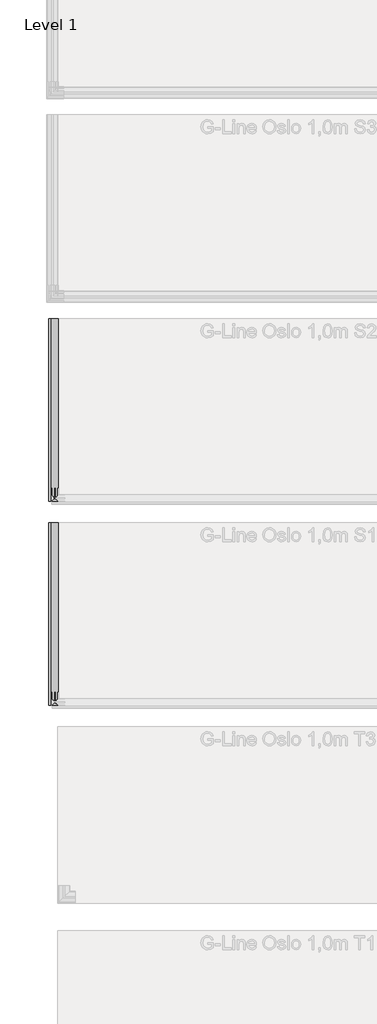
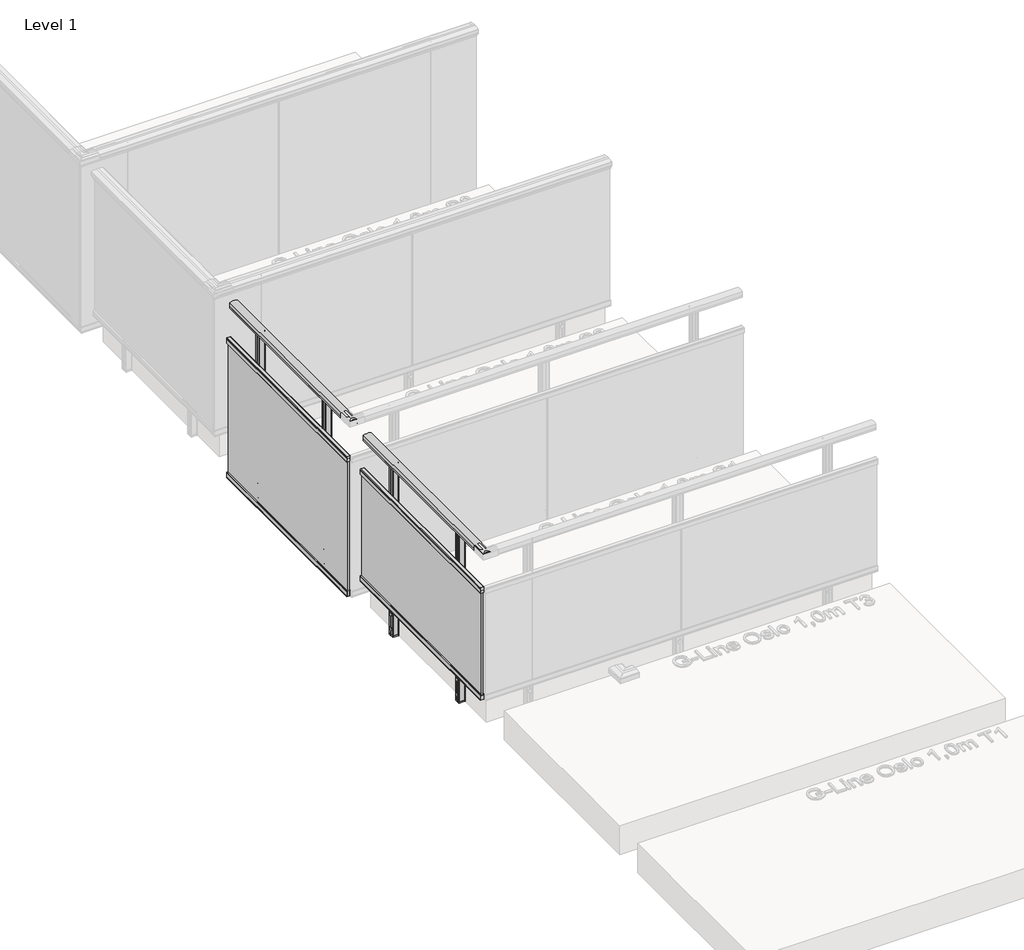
# One storey, part 31 of 66: 2 railings.
"""IFC4 building model written with IfcOpenShell, lengths in millimetres."""

from ifc_helpers import new_model, si_unit, point, frame, frame_2d, origin, place, context, project, spatial, polyline, circle_curve, trimmed, segment, composite_curve, outline, extrude, element, save

model = new_model("IFC4")

# Units and contexts
model_context = context("Model", 3, world=origin())
ifc_project = project(units=[si_unit("LENGTHUNIT", "METRE", prefix="MILLI")], contexts=[model_context])

# Site, building, storey
site = spatial("IfcSite", under=ifc_project)
building = spatial("IfcBuilding", under=site)
storey = spatial("IfcBuildingStorey", under=building, Name="Level 1", Elevation=0.0)

# Railings
placement = place(None, origin())
element("IfcRailing", 1, ObjectType="G-Line Oslo 1,0m S1", at=placement, inside=storey, context=model_context, shape_type="SweptSolid", body=[
    extrude(outline(composite_curve([segment(trimmed(circle_curve(frame_2d((942.6785502, 4483.339356)), 57.3235687), [point((994.1390059, 4508.5943162))], [point((994.1342258, 4458.074658))], False, "CARTESIAN"), True, "CONTINUOUS"), segment(polyline([(994.1342258, 4458.074658), (967.0235023, 4458.074658), (966.4415706, 4458.6565897), (965.8194895, 4458.0345086), (957.2498847, 4458.0345086), (957.2498847, 4459.8394615), (980.4998829, 4459.8394615), (980.4998829, 4506.8345077), (957.2498847, 4506.8345077), (957.2498847, 4508.5943162), (965.9694895, 4508.5943162), (966.5842725, 4507.9795332), (967.1990555, 4508.5943162), (994.1390059, 4508.5943162)]), True, "CONTINUOUS")], self_intersect=False)), frame((0.0, 12585.2886441, 0.0), z_axis=(0.0, 1.0, 0.0), x_axis=(0.0, 0.0, 1.0)), (0.0, 0.0, 1.0), 1345.0),
    extrude(outline(composite_curve([segment(polyline([(733.0, 4455.8148386), (733.0, 4463.0547322)]), True, "CONTINUOUS"), segment(trimmed(circle_curve(frame_2d((733.5, 4463.0547322)), 0.5), [point((733.0, 4463.0547322))], [point((733.6964102, 4463.5145399))], False, "CARTESIAN"), True, "CONTINUOUS"), segment(polyline([(733.6964102, 4463.5145399), (761.6142612, 4463.5145399), (762.5701988, 4463.0913348), (763.5302866, 4463.5547322), (768.5, 4463.5547322)]), True, "CONTINUOUS"), segment(trimmed(circle_curve(frame_2d((768.5, 4462.0547322)), 1.5), [point((768.5, 4463.5547322))], [point((770.0, 4462.0547322))], False, "CARTESIAN"), True, "CONTINUOUS"), segment(polyline([(770.0, 4462.0547322), (770.0, 4440.0547322)]), True, "CONTINUOUS"), segment(trimmed(circle_curve(frame_2d((768.5, 4440.0547322)), 1.5), [point((770.0, 4440.0547322))], [point((768.5, 4438.5547322))], False, "CARTESIAN"), True, "CONTINUOUS"), segment(polyline([(768.5, 4438.5547322), (763.3802866, 4438.5949246), (762.5008136, 4439.0181297), (761.4642612, 4438.5547322), (733.5, 4438.5547322)]), True, "CONTINUOUS"), segment(trimmed(circle_curve(frame_2d((733.5, 4439.0547322)), 0.5), [point((733.5, 4438.5547322))], [point((733.0, 4439.0547322))], False, "CARTESIAN"), True, "CONTINUOUS"), segment(polyline([(733.0, 4439.0547322), (733.0, 4446.2948387), (733.0, 4455.8148386)]), True, "CONTINUOUS")], self_intersect=False)), frame((0.0, 12585.2886441, 0.0), z_axis=(0.0, 1.0, 0.0), x_axis=(0.0, 0.0, 1.0)), (0.0, 0.0, 1.0), 1345.0),
    extrude(outline(polyline([(4446.6747322, 13930.2886441), (4455.4347322, 13930.2886441), (4455.4347322, 12585.2886441), (4446.6747322, 12585.2886441), (4446.6747322, 13930.2886441)])), frame((0.0, 0.0, 28.0), z_axis=(0.0, 0.0, 1.0), x_axis=(1.0, 0.0, 0.0)), (0.0, 0.0, 1.0), 722.0),
    extrude(outline(composite_curve([segment(polyline([(37.0, 4446.2946259), (37.0, 4439.0547322)]), True, "CONTINUOUS"), segment(trimmed(circle_curve(frame_2d((36.5, 4439.0547322)), 0.5), [point((37.0, 4439.0547322))], [point((36.3035898, 4438.5949246))], False, "CARTESIAN"), True, "CONTINUOUS"), segment(polyline([(36.3035898, 4438.5949246), (8.3857388, 4438.5949246), (7.4298012, 4439.0181297), (6.4697134, 4438.5547322), (1.5, 4438.5547322)]), True, "CONTINUOUS"), segment(trimmed(circle_curve(frame_2d((1.5, 4440.0547322)), 1.5), [point((1.5, 4438.5547322))], [point((0.0, 4440.0547322))], False, "CARTESIAN"), True, "CONTINUOUS"), segment(polyline([(0.0, 4440.0547322), (0.0, 4462.0547322)]), True, "CONTINUOUS"), segment(trimmed(circle_curve(frame_2d((1.5, 4462.0547322)), 1.5), [point((0.0, 4462.0547322))], [point((1.5, 4463.5547322))], False, "CARTESIAN"), True, "CONTINUOUS"), segment(polyline([(1.5, 4463.5547322), (6.6197134, 4463.5145399), (7.4991864, 4463.0913348), (8.5357388, 4463.5547322), (36.5, 4463.5547322)]), True, "CONTINUOUS"), segment(trimmed(circle_curve(frame_2d((36.5, 4463.0547322)), 0.5), [point((36.5, 4463.5547322))], [point((37.0, 4463.0547322))], False, "CARTESIAN"), True, "CONTINUOUS"), segment(polyline([(37.0, 4463.0547322), (37.0, 4455.8146258), (37.0, 4446.2946259)]), True, "CONTINUOUS")], self_intersect=False)), frame((0.0, 12585.2886441, 0.0), z_axis=(0.0, 1.0, 0.0), x_axis=(0.0, 0.0, 1.0)), (0.0, 0.0, 1.0), 1345.0),
    extrude(outline(composite_curve([segment(polyline([(4504.0547322, 12884.4858571), (4504.0547322, 12867.4625571)]), True, "CONTINUOUS"), segment(trimmed(circle_curve(frame_2d((4501.8808192, 12867.4625571)), 2.173913), [point((4504.0547322, 12867.4625571))], [point((4501.8808192, 12865.2886441))], False, "CARTESIAN"), True, "CONTINUOUS"), segment(polyline([(4501.8808192, 12865.2886441), (4466.2286453, 12865.2886441)]), True, "CONTINUOUS"), segment(trimmed(circle_curve(frame_2d((4466.2286453, 12867.4625571)), 2.173913), [point((4466.2286453, 12865.2886441))], [point((4464.0547322, 12867.4625571))], False, "CARTESIAN"), True, "CONTINUOUS"), segment(polyline([(4464.0547322, 12867.4625571), (4464.0896821, 12884.520807), (4464.8575193, 12885.2886441), (4464.0896821, 12886.0564812), (4464.0547322, 12903.114731)]), True, "CONTINUOUS"), segment(trimmed(circle_curve(frame_2d((4466.2286453, 12903.114731)), 2.173913), [point((4464.0547322, 12903.114731))], [point((4466.2286453, 12905.2886441))], False, "CARTESIAN"), True, "CONTINUOUS"), segment(polyline([(4466.2286453, 12905.2886441), (4501.8808192, 12905.2886441)]), True, "CONTINUOUS"), segment(trimmed(circle_curve(frame_2d((4501.8808192, 12903.114731)), 2.173913), [point((4501.8808192, 12905.2886441))], [point((4504.0547322, 12903.1147311))], False, "CARTESIAN"), True, "CONTINUOUS"), segment(polyline([(4504.0547322, 12903.1147311), (4504.0197823, 12886.0564812), (4503.2519452, 12885.2886441), (4504.0547322, 12884.4858571)]), True, "CONTINUOUS")], self_intersect=False)), frame((0.0, 0.0, -200.0), z_axis=(0.0, 0.0, 1.0), x_axis=(1.0, 0.0, 0.0)), (0.0, 0.0, 1.0), 10.0),
    extrude(outline(composite_curve([segment(trimmed(circle_curve(frame_2d((4501.8808192, 12903.114731)), 2.173913), [point((4501.8808192, 12905.2886441))], [point((4504.0547322, 12903.114731))], False, "CARTESIAN"), True, "CONTINUOUS"), segment(polyline([(4504.0547322, 12903.114731), (4504.0197823, 12886.0564812), (4503.6517779, 12885.1582093), (4504.0547322, 12884.3903722), (4504.0547322, 12867.4625571)]), True, "CONTINUOUS"), segment(trimmed(circle_curve(frame_2d((4501.8808192, 12867.4625571)), 2.173913), [point((4504.0547322, 12867.4625571))], [point((4501.8808192, 12865.2886441))], False, "CARTESIAN"), True, "CONTINUOUS"), segment(polyline([(4501.8808192, 12865.2886441), (4466.2286453, 12865.2886441)]), True, "CONTINUOUS"), segment(trimmed(circle_curve(frame_2d((4466.2286453, 12867.4625571)), 2.173913), [point((4466.2286453, 12865.2886441))], [point((4464.0547322, 12867.4625571))], False, "CARTESIAN"), True, "CONTINUOUS"), segment(polyline([(4464.0547322, 12867.4625571), (4464.0896821, 12884.520807), (4464.8575193, 12885.2886441), (4464.0896821, 12886.0564812), (4464.0547322, 12903.114731)]), True, "CONTINUOUS"), segment(trimmed(circle_curve(frame_2d((4466.2286453, 12903.114731)), 2.173913), [point((4464.0547322, 12903.114731))], [point((4466.2286453, 12905.2886441))], False, "CARTESIAN"), True, "CONTINUOUS"), segment(polyline([(4466.2286453, 12905.2886441), (4501.8808192, 12905.2886441)]), True, "CONTINUOUS")], self_intersect=False), holes=[composite_curve([segment(polyline([(4499.7069062, 12901.8103832), (4468.4025583, 12901.8103832)]), True, "CONTINUOUS"), segment(trimmed(circle_curve(frame_2d((4468.4025583, 12900.940818)), 0.8695652), [point((4468.4025583, 12901.8103832))], [point((4467.5329931, 12900.940818))], True, "CARTESIAN"), True, "CONTINUOUS"), segment(polyline([(4467.5329931, 12900.940818), (4467.5329931, 12869.6364702)]), True, "CONTINUOUS"), segment(trimmed(circle_curve(frame_2d((4468.4025583, 12869.6364702)), 0.8695652), [point((4467.5329931, 12869.6364702))], [point((4468.4025583, 12868.766905))], True, "CARTESIAN"), True, "CONTINUOUS"), segment(polyline([(4468.4025583, 12868.766905), (4499.7069062, 12868.766905)]), True, "CONTINUOUS"), segment(trimmed(circle_curve(frame_2d((4499.7069062, 12869.6364702)), 0.8695652), [point((4499.7069062, 12868.766905))], [point((4500.5764714, 12869.6364702))], True, "CARTESIAN"), True, "CONTINUOUS"), segment(polyline([(4500.5764714, 12869.6364702), (4500.5764714, 12900.940818)]), True, "CONTINUOUS"), segment(trimmed(circle_curve(frame_2d((4499.7069062, 12900.940818)), 0.8695652), [point((4500.5764714, 12900.940818))], [point((4499.7069062, 12901.8103832))], True, "CARTESIAN"), True, "CONTINUOUS")], self_intersect=False)]), frame((0.0, 0.0, -190.0), z_axis=(0.0, 0.0, 1.0), x_axis=(1.0, 0.0, 0.0)), (0.0, 0.0, 1.0), 1178.0),
    extrude(outline(composite_curve([segment(trimmed(circle_curve(frame_2d((0.0, 12.0000001)), 12.0), [point((0.0, 24.0))], [point((0.0, 0.0))], False, "CARTESIAN"), True, "CONTINUOUS"), segment(trimmed(circle_curve(frame_2d((0.0, 12.0000001)), 12.0), [point((0.0, 0.0))], [point((0.0, 24.0))], False, "CARTESIAN"), True, "CONTINUOUS")], self_intersect=False)), frame((4464.0666505, 12897.2976817, -151.0), z_axis=(-0.9999999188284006, 0.00040291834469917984, 0.0), x_axis=(0.0, 0.0, -1.0)), (0.0, 0.0, 1.0), 3.0757477),
    extrude(outline(composite_curve([segment(trimmed(circle_curve(frame_2d((0.0, 12.0000001)), 12.0), [point((0.0, 24.0))], [point((0.0, 0.0))], False, "CARTESIAN"), True, "CONTINUOUS"), segment(trimmed(circle_curve(frame_2d((0.0, 12.0000001)), 12.0), [point((0.0, 0.0))], [point((0.0, 24.0))], False, "CARTESIAN"), True, "CONTINUOUS")], self_intersect=False)), frame((4464.0666505, 12897.2976817, -50.0), z_axis=(-0.9999999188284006, 0.00040291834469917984, 0.0), x_axis=(0.0, 0.0, -1.0)), (0.0, 0.0, 1.0), 3.0757477),
    extrude(outline(composite_curve([segment(polyline([(4504.0547322, 13629.4858571), (4504.0547322, 13612.4625571)]), True, "CONTINUOUS"), segment(trimmed(circle_curve(frame_2d((4501.8808192, 13612.4625571)), 2.173913), [point((4504.0547322, 13612.4625571))], [point((4501.8808192, 13610.2886441))], False, "CARTESIAN"), True, "CONTINUOUS"), segment(polyline([(4501.8808192, 13610.2886441), (4466.2286453, 13610.2886441)]), True, "CONTINUOUS"), segment(trimmed(circle_curve(frame_2d((4466.2286453, 13612.4625571)), 2.173913), [point((4466.2286453, 13610.2886441))], [point((4464.0547322, 13612.4625571))], False, "CARTESIAN"), True, "CONTINUOUS"), segment(polyline([(4464.0547322, 13612.4625571), (4464.0896821, 13629.520807), (4464.8575193, 13630.2886441), (4464.0896821, 13631.0564812), (4464.0547322, 13648.114731)]), True, "CONTINUOUS"), segment(trimmed(circle_curve(frame_2d((4466.2286453, 13648.114731)), 2.173913), [point((4464.0547322, 13648.114731))], [point((4466.2286453, 13650.2886441))], False, "CARTESIAN"), True, "CONTINUOUS"), segment(polyline([(4466.2286453, 13650.2886441), (4501.8808192, 13650.2886441)]), True, "CONTINUOUS"), segment(trimmed(circle_curve(frame_2d((4501.8808192, 13648.114731)), 2.173913), [point((4501.8808192, 13650.2886441))], [point((4504.0547322, 13648.1147311))], False, "CARTESIAN"), True, "CONTINUOUS"), segment(polyline([(4504.0547322, 13648.1147311), (4504.0197823, 13631.0564812), (4503.2519452, 13630.2886441), (4504.0547322, 13629.4858571)]), True, "CONTINUOUS")], self_intersect=False)), frame((0.0, 0.0, -200.0), z_axis=(0.0, 0.0, 1.0), x_axis=(1.0, 0.0, 0.0)), (0.0, 0.0, 1.0), 10.0),
    extrude(outline(composite_curve([segment(trimmed(circle_curve(frame_2d((4501.8808192, 13648.114731)), 2.173913), [point((4501.8808192, 13650.2886441))], [point((4504.0547322, 13648.114731))], False, "CARTESIAN"), True, "CONTINUOUS"), segment(polyline([(4504.0547322, 13648.114731), (4504.0197823, 13631.0564812), (4503.6517779, 13630.1582093), (4504.0547322, 13629.3903722), (4504.0547322, 13612.4625571)]), True, "CONTINUOUS"), segment(trimmed(circle_curve(frame_2d((4501.8808192, 13612.4625571)), 2.173913), [point((4504.0547322, 13612.4625571))], [point((4501.8808192, 13610.2886441))], False, "CARTESIAN"), True, "CONTINUOUS"), segment(polyline([(4501.8808192, 13610.2886441), (4466.2286453, 13610.2886441)]), True, "CONTINUOUS"), segment(trimmed(circle_curve(frame_2d((4466.2286453, 13612.4625571)), 2.173913), [point((4466.2286453, 13610.2886441))], [point((4464.0547322, 13612.4625571))], False, "CARTESIAN"), True, "CONTINUOUS"), segment(polyline([(4464.0547322, 13612.4625571), (4464.0896821, 13629.520807), (4464.8575193, 13630.2886441), (4464.0896821, 13631.0564812), (4464.0547322, 13648.114731)]), True, "CONTINUOUS"), segment(trimmed(circle_curve(frame_2d((4466.2286453, 13648.114731)), 2.173913), [point((4464.0547322, 13648.114731))], [point((4466.2286453, 13650.2886441))], False, "CARTESIAN"), True, "CONTINUOUS"), segment(polyline([(4466.2286453, 13650.2886441), (4501.8808192, 13650.2886441)]), True, "CONTINUOUS")], self_intersect=False), holes=[composite_curve([segment(polyline([(4499.7069062, 13646.8103832), (4468.4025583, 13646.8103832)]), True, "CONTINUOUS"), segment(trimmed(circle_curve(frame_2d((4468.4025583, 13645.940818)), 0.8695652), [point((4468.4025583, 13646.8103832))], [point((4467.5329931, 13645.940818))], True, "CARTESIAN"), True, "CONTINUOUS"), segment(polyline([(4467.5329931, 13645.940818), (4467.5329931, 13614.6364702)]), True, "CONTINUOUS"), segment(trimmed(circle_curve(frame_2d((4468.4025583, 13614.6364702)), 0.8695652), [point((4467.5329931, 13614.6364702))], [point((4468.4025583, 13613.766905))], True, "CARTESIAN"), True, "CONTINUOUS"), segment(polyline([(4468.4025583, 13613.766905), (4499.7069062, 13613.766905)]), True, "CONTINUOUS"), segment(trimmed(circle_curve(frame_2d((4499.7069062, 13614.6364702)), 0.8695652), [point((4499.7069062, 13613.766905))], [point((4500.5764714, 13614.6364702))], True, "CARTESIAN"), True, "CONTINUOUS"), segment(polyline([(4500.5764714, 13614.6364702), (4500.5764714, 13645.940818)]), True, "CONTINUOUS"), segment(trimmed(circle_curve(frame_2d((4499.7069062, 13645.940818)), 0.8695652), [point((4500.5764714, 13645.940818))], [point((4499.7069062, 13646.8103832))], True, "CARTESIAN"), True, "CONTINUOUS")], self_intersect=False)]), frame((0.0, 0.0, -190.0), z_axis=(0.0, 0.0, 1.0), x_axis=(1.0, 0.0, 0.0)), (0.0, 0.0, 1.0), 1178.0),
    extrude(outline(composite_curve([segment(trimmed(circle_curve(frame_2d((0.0, 12.0000001)), 12.0), [point((0.0, 24.0))], [point((0.0, 0.0))], False, "CARTESIAN"), True, "CONTINUOUS"), segment(trimmed(circle_curve(frame_2d((0.0, 12.0000001)), 12.0), [point((0.0, 0.0))], [point((0.0, 24.0))], False, "CARTESIAN"), True, "CONTINUOUS")], self_intersect=False)), frame((4464.0666505, 13642.2976817, -151.0), z_axis=(-0.9999999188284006, 0.00040291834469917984, 0.0), x_axis=(0.0, 0.0, -1.0)), (0.0, 0.0, 1.0), 3.0757477),
    extrude(outline(composite_curve([segment(trimmed(circle_curve(frame_2d((0.0, 12.0000001)), 12.0), [point((0.0, 24.0))], [point((0.0, 0.0))], False, "CARTESIAN"), True, "CONTINUOUS"), segment(trimmed(circle_curve(frame_2d((0.0, 12.0000001)), 12.0), [point((0.0, 0.0))], [point((0.0, 24.0))], False, "CARTESIAN"), True, "CONTINUOUS")], self_intersect=False)), frame((4464.0666505, 13642.2976817, -50.0), z_axis=(-0.9999999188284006, 0.00040291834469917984, 0.0), x_axis=(0.0, 0.0, -1.0)), (0.0, 0.0, 1.0), 3.0757477),
])
element("IfcRailing", 2, ObjectType="G-Line Oslo 1,0m  S2", at=placement, inside=storey, context=model_context, shape_type="SweptSolid", body=[
    extrude(outline(composite_curve([segment(trimmed(circle_curve(frame_2d((942.6785502, 4483.339356)), 57.3235687), [point((994.1390059, 4508.5943162))], [point((994.1342258, 4458.074658))], False, "CARTESIAN"), True, "CONTINUOUS"), segment(polyline([(994.1342258, 4458.074658), (967.0235023, 4458.074658), (966.4415706, 4458.6565897), (965.8194895, 4458.0345086), (957.2498847, 4458.0345086), (957.2498847, 4459.8394615), (980.4998829, 4459.8394615), (980.4998829, 4506.8345077), (957.2498847, 4506.8345077), (957.2498847, 4508.5943162), (965.9694895, 4508.5943162), (966.5842725, 4507.9795332), (967.1990555, 4508.5943162), (994.1390059, 4508.5943162)]), True, "CONTINUOUS")], self_intersect=False)), frame((0.0, 14085.2886441, 0.0), z_axis=(0.0, 1.0, 0.0), x_axis=(0.0, 0.0, 1.0)), (0.0, 0.0, 1.0), 1345.0),
    extrude(outline(composite_curve([segment(polyline([(723.0, 4455.8148386), (723.0, 4463.0547322)]), True, "CONTINUOUS"), segment(trimmed(circle_curve(frame_2d((723.5, 4463.0547322)), 0.5), [point((723.0, 4463.0547322))], [point((723.6964102, 4463.5145399))], False, "CARTESIAN"), True, "CONTINUOUS"), segment(polyline([(723.6964102, 4463.5145399), (751.6142612, 4463.5145399), (752.5701988, 4463.0913348), (753.5302866, 4463.5547322), (758.5, 4463.5547322)]), True, "CONTINUOUS"), segment(trimmed(circle_curve(frame_2d((758.5, 4462.0547322)), 1.5), [point((758.5, 4463.5547322))], [point((760.0, 4462.0547322))], False, "CARTESIAN"), True, "CONTINUOUS"), segment(polyline([(760.0, 4462.0547322), (760.0, 4440.0547322)]), True, "CONTINUOUS"), segment(trimmed(circle_curve(frame_2d((758.5, 4440.0547322)), 1.5), [point((760.0, 4440.0547322))], [point((758.5, 4438.5547322))], False, "CARTESIAN"), True, "CONTINUOUS"), segment(polyline([(758.5, 4438.5547322), (753.3802866, 4438.5949246), (752.5008136, 4439.0181297), (751.4642612, 4438.5547322), (723.5, 4438.5547322)]), True, "CONTINUOUS"), segment(trimmed(circle_curve(frame_2d((723.5, 4439.0547322)), 0.5), [point((723.5, 4438.5547322))], [point((723.0, 4439.0547322))], False, "CARTESIAN"), True, "CONTINUOUS"), segment(polyline([(723.0, 4439.0547322), (723.0, 4446.2948387), (723.0, 4455.8148386)]), True, "CONTINUOUS")], self_intersect=False)), frame((0.0, 14085.2886441, 0.0), z_axis=(0.0, 1.0, 0.0), x_axis=(0.0, 0.0, 1.0)), (0.0, 0.0, 1.0), 1345.0),
    extrude(outline(polyline([(4446.6747322, 15430.2886441), (4455.4347322, 15430.2886441), (4455.4347322, 14085.2886441), (4446.6747322, 14085.2886441), (4446.6747322, 15430.2886441)])), frame((0.0, 0.0, -200.0), z_axis=(0.0, 0.0, 1.0), x_axis=(1.0, 0.0, 0.0)), (0.0, 0.0, 1.0), 945.0),
    extrude(outline(composite_curve([segment(polyline([(-163.0, 4446.2946259), (-163.0, 4439.0547322)]), True, "CONTINUOUS"), segment(trimmed(circle_curve(frame_2d((-163.5, 4439.0547322)), 0.5), [point((-163.0, 4439.0547322))], [point((-163.6964102, 4438.5949246))], False, "CARTESIAN"), True, "CONTINUOUS"), segment(polyline([(-163.6964102, 4438.5949246), (-191.6142612, 4438.5949246), (-192.5701988, 4439.0181297), (-193.5302866, 4438.5547322), (-198.5, 4438.5547322)]), True, "CONTINUOUS"), segment(trimmed(circle_curve(frame_2d((-198.5, 4440.0547322)), 1.5), [point((-198.5, 4438.5547322))], [point((-200.0, 4440.0547322))], False, "CARTESIAN"), True, "CONTINUOUS"), segment(polyline([(-200.0, 4440.0547322), (-200.0, 4462.0547322)]), True, "CONTINUOUS"), segment(trimmed(circle_curve(frame_2d((-198.5, 4462.0547322)), 1.5), [point((-200.0, 4462.0547322))], [point((-198.5, 4463.5547322))], False, "CARTESIAN"), True, "CONTINUOUS"), segment(polyline([(-198.5, 4463.5547322), (-193.3802866, 4463.5145399), (-192.5008136, 4463.0913348), (-191.4642612, 4463.5547322), (-163.5, 4463.5547322)]), True, "CONTINUOUS"), segment(trimmed(circle_curve(frame_2d((-163.5, 4463.0547322)), 0.5), [point((-163.5, 4463.5547322))], [point((-163.0, 4463.0547322))], False, "CARTESIAN"), True, "CONTINUOUS"), segment(polyline([(-163.0, 4463.0547322), (-163.0, 4455.8146258), (-163.0, 4446.2946259)]), True, "CONTINUOUS")], self_intersect=False)), frame((0.0, 14085.2886441, 0.0), z_axis=(0.0, 1.0, 0.0), x_axis=(0.0, 0.0, 1.0)), (0.0, 0.0, 1.0), 1345.0),
    extrude(outline(composite_curve([segment(polyline([(4504.0547322, 14384.4858571), (4504.0547322, 14367.4625571)]), True, "CONTINUOUS"), segment(trimmed(circle_curve(frame_2d((4501.8808192, 14367.4625571)), 2.173913), [point((4504.0547322, 14367.4625571))], [point((4501.8808192, 14365.2886441))], False, "CARTESIAN"), True, "CONTINUOUS"), segment(polyline([(4501.8808192, 14365.2886441), (4466.2286453, 14365.2886441)]), True, "CONTINUOUS"), segment(trimmed(circle_curve(frame_2d((4466.2286453, 14367.4625571)), 2.173913), [point((4466.2286453, 14365.2886441))], [point((4464.0547322, 14367.4625571))], False, "CARTESIAN"), True, "CONTINUOUS"), segment(polyline([(4464.0547322, 14367.4625571), (4464.0896821, 14384.520807), (4464.8575193, 14385.2886441), (4464.0896821, 14386.0564812), (4464.0547322, 14403.114731)]), True, "CONTINUOUS"), segment(trimmed(circle_curve(frame_2d((4466.2286453, 14403.114731)), 2.173913), [point((4464.0547322, 14403.114731))], [point((4466.2286453, 14405.2886441))], False, "CARTESIAN"), True, "CONTINUOUS"), segment(polyline([(4466.2286453, 14405.2886441), (4501.8808192, 14405.2886441)]), True, "CONTINUOUS"), segment(trimmed(circle_curve(frame_2d((4501.8808192, 14403.114731)), 2.173913), [point((4501.8808192, 14405.2886441))], [point((4504.0547322, 14403.1147311))], False, "CARTESIAN"), True, "CONTINUOUS"), segment(polyline([(4504.0547322, 14403.1147311), (4504.0197823, 14386.0564812), (4503.2519452, 14385.2886441), (4504.0547322, 14384.4858571)]), True, "CONTINUOUS")], self_intersect=False)), frame((0.0, 0.0, -200.0), z_axis=(0.0, 0.0, 1.0), x_axis=(1.0, 0.0, 0.0)), (0.0, 0.0, 1.0), 10.0),
    extrude(outline(composite_curve([segment(trimmed(circle_curve(frame_2d((4501.8808192, 14403.114731)), 2.173913), [point((4501.8808192, 14405.2886441))], [point((4504.0547322, 14403.114731))], False, "CARTESIAN"), True, "CONTINUOUS"), segment(polyline([(4504.0547322, 14403.114731), (4504.0197823, 14386.0564812), (4503.6517779, 14385.1582093), (4504.0547322, 14384.3903722), (4504.0547322, 14367.4625571)]), True, "CONTINUOUS"), segment(trimmed(circle_curve(frame_2d((4501.8808192, 14367.4625571)), 2.173913), [point((4504.0547322, 14367.4625571))], [point((4501.8808192, 14365.2886441))], False, "CARTESIAN"), True, "CONTINUOUS"), segment(polyline([(4501.8808192, 14365.2886441), (4466.2286453, 14365.2886441)]), True, "CONTINUOUS"), segment(trimmed(circle_curve(frame_2d((4466.2286453, 14367.4625571)), 2.173913), [point((4466.2286453, 14365.2886441))], [point((4464.0547322, 14367.4625571))], False, "CARTESIAN"), True, "CONTINUOUS"), segment(polyline([(4464.0547322, 14367.4625571), (4464.0896821, 14384.520807), (4464.8575193, 14385.2886441), (4464.0896821, 14386.0564812), (4464.0547322, 14403.114731)]), True, "CONTINUOUS"), segment(trimmed(circle_curve(frame_2d((4466.2286453, 14403.114731)), 2.173913), [point((4464.0547322, 14403.114731))], [point((4466.2286453, 14405.2886441))], False, "CARTESIAN"), True, "CONTINUOUS"), segment(polyline([(4466.2286453, 14405.2886441), (4501.8808192, 14405.2886441)]), True, "CONTINUOUS")], self_intersect=False), holes=[composite_curve([segment(polyline([(4499.7069062, 14401.8103832), (4468.4025583, 14401.8103832)]), True, "CONTINUOUS"), segment(trimmed(circle_curve(frame_2d((4468.4025583, 14400.940818)), 0.8695652), [point((4468.4025583, 14401.8103832))], [point((4467.5329931, 14400.940818))], True, "CARTESIAN"), True, "CONTINUOUS"), segment(polyline([(4467.5329931, 14400.940818), (4467.5329931, 14369.6364702)]), True, "CONTINUOUS"), segment(trimmed(circle_curve(frame_2d((4468.4025583, 14369.6364702)), 0.8695652), [point((4467.5329931, 14369.6364702))], [point((4468.4025583, 14368.766905))], True, "CARTESIAN"), True, "CONTINUOUS"), segment(polyline([(4468.4025583, 14368.766905), (4499.7069062, 14368.766905)]), True, "CONTINUOUS"), segment(trimmed(circle_curve(frame_2d((4499.7069062, 14369.6364702)), 0.8695652), [point((4499.7069062, 14368.766905))], [point((4500.5764714, 14369.6364702))], True, "CARTESIAN"), True, "CONTINUOUS"), segment(polyline([(4500.5764714, 14369.6364702), (4500.5764714, 14400.940818)]), True, "CONTINUOUS"), segment(trimmed(circle_curve(frame_2d((4499.7069062, 14400.940818)), 0.8695652), [point((4500.5764714, 14400.940818))], [point((4499.7069062, 14401.8103832))], True, "CARTESIAN"), True, "CONTINUOUS")], self_intersect=False)]), frame((0.0, 0.0, -190.0), z_axis=(0.0, 0.0, 1.0), x_axis=(1.0, 0.0, 0.0)), (0.0, 0.0, 1.0), 1171.0),
    extrude(outline(composite_curve([segment(trimmed(circle_curve(frame_2d((0.0, 12.0000001)), 12.0), [point((0.0, 24.0))], [point((0.0, 0.0))], False, "CARTESIAN"), True, "CONTINUOUS"), segment(trimmed(circle_curve(frame_2d((0.0, 12.0000001)), 12.0), [point((0.0, 0.0))], [point((0.0, 24.0))], False, "CARTESIAN"), True, "CONTINUOUS")], self_intersect=False)), frame((4464.0666505, 14397.2976817, -151.0), z_axis=(-0.9999999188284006, 0.00040291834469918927, 0.0), x_axis=(0.0, 0.0, -1.0)), (0.0, 0.0, 1.0), 3.0757477),
    extrude(outline(composite_curve([segment(trimmed(circle_curve(frame_2d((0.0, 12.0000001)), 12.0), [point((0.0, 24.0))], [point((0.0, 0.0))], False, "CARTESIAN"), True, "CONTINUOUS"), segment(trimmed(circle_curve(frame_2d((0.0, 12.0000001)), 12.0), [point((0.0, 0.0))], [point((0.0, 24.0))], False, "CARTESIAN"), True, "CONTINUOUS")], self_intersect=False)), frame((4464.0666505, 14397.2976817, -50.0), z_axis=(-0.9999999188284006, 0.00040291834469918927, 0.0), x_axis=(0.0, 0.0, -1.0)), (0.0, 0.0, 1.0), 3.0757477),
    extrude(outline(composite_curve([segment(polyline([(4504.0547322, 15129.4858571), (4504.0547322, 15112.4625571)]), True, "CONTINUOUS"), segment(trimmed(circle_curve(frame_2d((4501.8808192, 15112.4625571)), 2.173913), [point((4504.0547322, 15112.4625571))], [point((4501.8808192, 15110.2886441))], False, "CARTESIAN"), True, "CONTINUOUS"), segment(polyline([(4501.8808192, 15110.2886441), (4466.2286453, 15110.2886441)]), True, "CONTINUOUS"), segment(trimmed(circle_curve(frame_2d((4466.2286453, 15112.4625571)), 2.173913), [point((4466.2286453, 15110.2886441))], [point((4464.0547322, 15112.4625571))], False, "CARTESIAN"), True, "CONTINUOUS"), segment(polyline([(4464.0547322, 15112.4625571), (4464.0896821, 15129.520807), (4464.8575193, 15130.2886441), (4464.0896821, 15131.0564812), (4464.0547322, 15148.114731)]), True, "CONTINUOUS"), segment(trimmed(circle_curve(frame_2d((4466.2286453, 15148.114731)), 2.173913), [point((4464.0547322, 15148.114731))], [point((4466.2286453, 15150.2886441))], False, "CARTESIAN"), True, "CONTINUOUS"), segment(polyline([(4466.2286453, 15150.2886441), (4501.8808192, 15150.2886441)]), True, "CONTINUOUS"), segment(trimmed(circle_curve(frame_2d((4501.8808192, 15148.114731)), 2.173913), [point((4501.8808192, 15150.2886441))], [point((4504.0547322, 15148.1147311))], False, "CARTESIAN"), True, "CONTINUOUS"), segment(polyline([(4504.0547322, 15148.1147311), (4504.0197823, 15131.0564812), (4503.2519452, 15130.2886441), (4504.0547322, 15129.4858571)]), True, "CONTINUOUS")], self_intersect=False)), frame((0.0, 0.0, -200.0), z_axis=(0.0, 0.0, 1.0), x_axis=(1.0, 0.0, 0.0)), (0.0, 0.0, 1.0), 10.0),
    extrude(outline(composite_curve([segment(trimmed(circle_curve(frame_2d((4501.8808192, 15148.114731)), 2.173913), [point((4501.8808192, 15150.2886441))], [point((4504.0547322, 15148.114731))], False, "CARTESIAN"), True, "CONTINUOUS"), segment(polyline([(4504.0547322, 15148.114731), (4504.0197823, 15131.0564812), (4503.6517779, 15130.1582093), (4504.0547322, 15129.3903722), (4504.0547322, 15112.4625571)]), True, "CONTINUOUS"), segment(trimmed(circle_curve(frame_2d((4501.8808192, 15112.4625571)), 2.173913), [point((4504.0547322, 15112.4625571))], [point((4501.8808192, 15110.2886441))], False, "CARTESIAN"), True, "CONTINUOUS"), segment(polyline([(4501.8808192, 15110.2886441), (4466.2286453, 15110.2886441)]), True, "CONTINUOUS"), segment(trimmed(circle_curve(frame_2d((4466.2286453, 15112.4625571)), 2.173913), [point((4466.2286453, 15110.2886441))], [point((4464.0547322, 15112.4625571))], False, "CARTESIAN"), True, "CONTINUOUS"), segment(polyline([(4464.0547322, 15112.4625571), (4464.0896821, 15129.520807), (4464.8575193, 15130.2886441), (4464.0896821, 15131.0564812), (4464.0547322, 15148.114731)]), True, "CONTINUOUS"), segment(trimmed(circle_curve(frame_2d((4466.2286453, 15148.114731)), 2.173913), [point((4464.0547322, 15148.114731))], [point((4466.2286453, 15150.2886441))], False, "CARTESIAN"), True, "CONTINUOUS"), segment(polyline([(4466.2286453, 15150.2886441), (4501.8808192, 15150.2886441)]), True, "CONTINUOUS")], self_intersect=False), holes=[composite_curve([segment(polyline([(4499.7069062, 15146.8103832), (4468.4025583, 15146.8103832)]), True, "CONTINUOUS"), segment(trimmed(circle_curve(frame_2d((4468.4025583, 15145.940818)), 0.8695652), [point((4468.4025583, 15146.8103832))], [point((4467.5329931, 15145.940818))], True, "CARTESIAN"), True, "CONTINUOUS"), segment(polyline([(4467.5329931, 15145.940818), (4467.5329931, 15114.6364702)]), True, "CONTINUOUS"), segment(trimmed(circle_curve(frame_2d((4468.4025583, 15114.6364702)), 0.8695652), [point((4467.5329931, 15114.6364702))], [point((4468.4025583, 15113.766905))], True, "CARTESIAN"), True, "CONTINUOUS"), segment(polyline([(4468.4025583, 15113.766905), (4499.7069062, 15113.766905)]), True, "CONTINUOUS"), segment(trimmed(circle_curve(frame_2d((4499.7069062, 15114.6364702)), 0.8695652), [point((4499.7069062, 15113.766905))], [point((4500.5764714, 15114.6364702))], True, "CARTESIAN"), True, "CONTINUOUS"), segment(polyline([(4500.5764714, 15114.6364702), (4500.5764714, 15145.940818)]), True, "CONTINUOUS"), segment(trimmed(circle_curve(frame_2d((4499.7069062, 15145.940818)), 0.8695652), [point((4500.5764714, 15145.940818))], [point((4499.7069062, 15146.8103832))], True, "CARTESIAN"), True, "CONTINUOUS")], self_intersect=False)]), frame((0.0, 0.0, -190.0), z_axis=(0.0, 0.0, 1.0), x_axis=(1.0, 0.0, 0.0)), (0.0, 0.0, 1.0), 1171.0),
    extrude(outline(composite_curve([segment(trimmed(circle_curve(frame_2d((0.0, 12.0000001)), 12.0), [point((0.0, 24.0))], [point((0.0, 0.0))], False, "CARTESIAN"), True, "CONTINUOUS"), segment(trimmed(circle_curve(frame_2d((0.0, 12.0000001)), 12.0), [point((0.0, 0.0))], [point((0.0, 24.0))], False, "CARTESIAN"), True, "CONTINUOUS")], self_intersect=False)), frame((4464.0666505, 15142.2976817, -151.0), z_axis=(-0.9999999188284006, 0.00040291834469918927, 0.0), x_axis=(0.0, 0.0, -1.0)), (0.0, 0.0, 1.0), 3.0757477),
    extrude(outline(composite_curve([segment(trimmed(circle_curve(frame_2d((0.0, 12.0000001)), 12.0), [point((0.0, 24.0))], [point((0.0, 0.0))], False, "CARTESIAN"), True, "CONTINUOUS"), segment(trimmed(circle_curve(frame_2d((0.0, 12.0000001)), 12.0), [point((0.0, 0.0))], [point((0.0, 24.0))], False, "CARTESIAN"), True, "CONTINUOUS")], self_intersect=False)), frame((4464.0666505, 15142.2976817, -50.0), z_axis=(-0.9999999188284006, 0.00040291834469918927, 0.0), x_axis=(0.0, 0.0, -1.0)), (0.0, 0.0, 1.0), 3.0757477),
])

save(model, "model.ifc")
